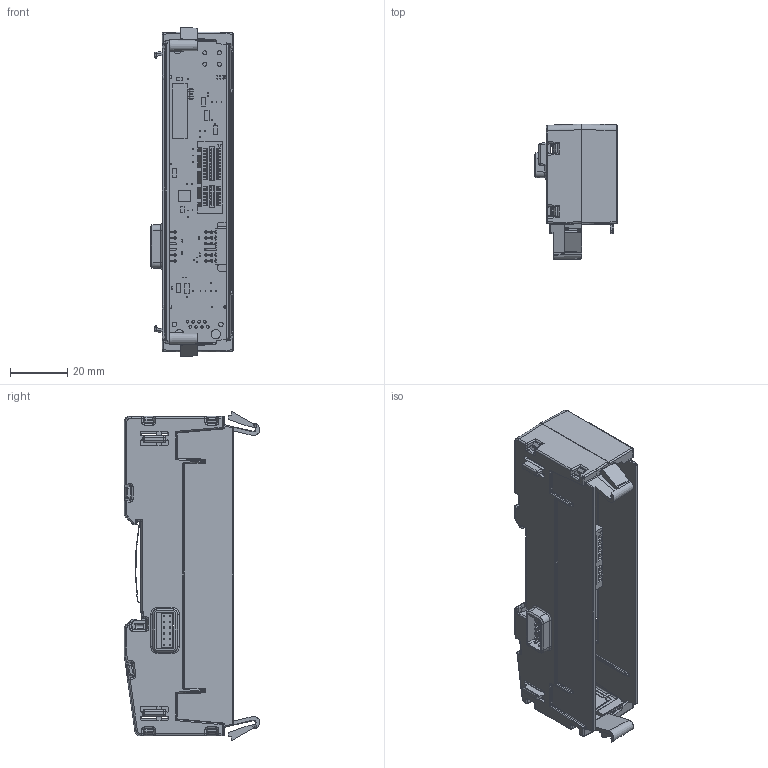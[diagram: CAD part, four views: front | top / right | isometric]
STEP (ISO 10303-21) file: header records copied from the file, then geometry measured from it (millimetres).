
FILE_DESCRIPTION(/* description */ (''),/* implementation_level */ '2;1');
FILE_NAME(/* name */ 'C:\Users\shoma\OneDrive - Brodersen\Project\3D Files\New Design\Backplane\BB21B\BB21B.stp',/* time_stamp */ '2024-10-12T21:16:22+02:00',/* author */ ('shoma'),/* organization */ (''),/* preprocessor_version */ 'ST-DEVELOPER v19',/* originating_system */ 'Autodesk Inventor 2023',/* authorisation */ '');
FILE_SCHEMA (('AUTOMOTIVE_DESIGN { 1 0 10303 214 3 1 1 }'));
Products named in the file (1): BB21B
Bounding box: 28.9 x 47.2 x 114.57 mm (x, y, z)
Volume: 23673.7 mm3; surface area: 36597.5 mm2
Topology: 8 solids, 8 shells, 4614 faces, 12858 edges, 8093 vertices
Faces by surface type: plane 2704, cylinder 1426, bspline 304, sphere 140, torus 24, cone 16
Full cylindrical faces by diameter (mm): 0.3 x36, 0.7 x36, 0.8 x6, 0.85 x24, 0.9 x8, 1.29 x1, 1.4 x4, 1.6 x2, 1.981 x1, 2.35 x2, 3 x1, 3.25 x2
Entity records: 162837 total; most frequent: CARTESIAN_POINT 39073, ORIENTED_EDGE 25468, DIRECTION 24143, EDGE_CURVE 12734, LINE 9067, VECTOR 9067, VERTEX_POINT 8093, AXIS2_PLACEMENT_3D 7538
